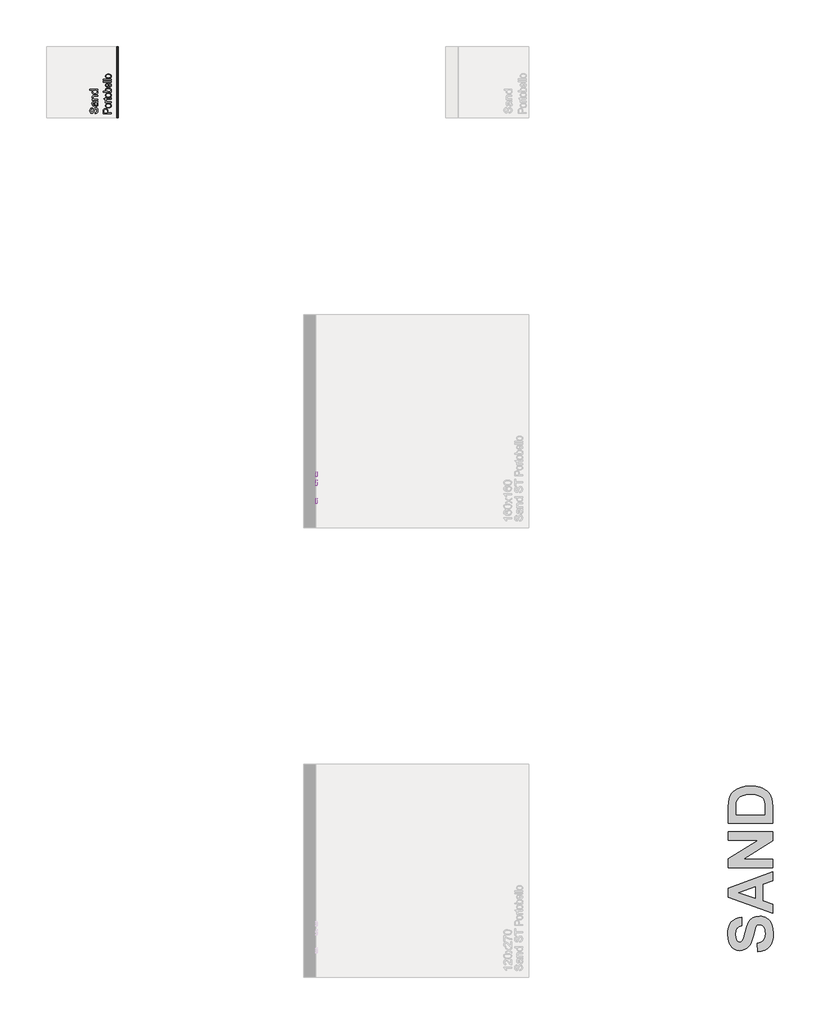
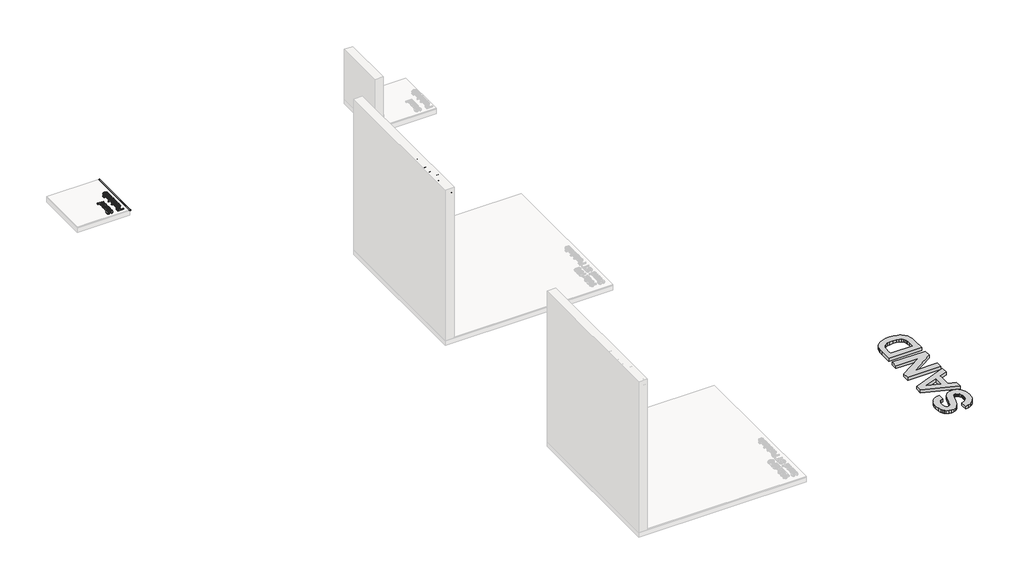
# One storey, part 10 of 19: 8 proxies.
"""IFC4 building model written with IfcOpenShell, lengths in millimetres."""

from ifc_helpers import new_model, si_unit, frame, origin, origin_with_axes, place, context, project, spatial, polyline, outline, extrude, transform, mapped, element, save
from components import off_white_04x90_tel_ext_ret_a41c1965, off_white_04x90_tel_ext_ret_b61131d4

model = new_model("IFC4")

# Units and contexts
model_context = context("Model", 3, world=origin())
ifc_project = project(units=[si_unit("LENGTHUNIT", "METRE", prefix="MILLI")], contexts=[model_context])

# Site, building, storey
site = spatial("IfcSite", under=ifc_project)
building = spatial("IfcBuilding", under=site)
storey = spatial("IfcBuildingStorey", under=building, Name="PORTOBELLO - SHOWROOM", Elevation=0.0)

# Proxies
placement = place(None, origin())
element("IfcBuildingElementProxy", 1, Name="10mm Arial", ObjectType="10mm Arial", at=placement, inside=storey, context=model_context, shape_type="SweptSolid", body=[
    extrude(outline(polyline([(10084.1273431, 2550.721447), (10096.6843818, 2550.721447), (10100.7310838, 2538.1521455), (10110.6148467, 2530.2058944), (10125.6734831, 2527.1769993), (10138.7946076, 2529.4701304), (10147.2681562, 2535.7731752), (10150.0517966, 2544.1976729), (10147.967132, 2552.0335594), (10139.4322697, 2557.7357303), (10121.1485345, 2562.530459), (10101.4668478, 2568.7231393), (10090.7860072, 2578.0673419), (10087.2666028, 2590.5508043), (10091.619873, 2604.763312), (10104.3363273, 2614.7942278), (10122.9511563, 2618.2155303), (10142.816784, 2614.6348123), (10156.0605359, 2604.1133872), (10161.0392055, 2588.3925633), (10148.4821668, 2588.3925633), (10146.1767729, 2595.8850932), (10141.3697815, 2601.2929586), (10123.4416656, 2605.6584916), (10105.4644988, 2601.3420095), (10099.8236415, 2590.9186863), (10103.8212925, 2582.2121457), (10124.3245824, 2575.1978624), (10146.5446549, 2568.8948175), (10158.6970235, 2558.716749), (10162.6088354, 2544.516504), (10158.1084123, 2529.4946558), (10145.1589661, 2518.5317724), (10126.1639924, 2514.6199605), (10103.7354534, 2518.8383407), (10089.5474711, 2531.5425323), (10084.1273431, 2550.721447)])), frame((-8994.2033025, 0.0, 0.0), z_axis=(1.0, 0.0, 0.0), x_axis=(0.0, 1.0, 0.0)), (0.0, 0.0, 1.0), 20.0),
    extrude(outline(polyline([(10226.9636591, 2525.6073694), (10214.786765, 2517.0970326), (10201.3345467, 2514.6199605), (10190.8407128, 2516.1098826), (10183.0998625, 2520.5796488), (10178.3265936, 2527.3670716), (10176.735504, 2535.8099634), (10179.1389997, 2545.7427773), (10185.4543073, 2552.9532644), (10194.246687, 2557.0735427), (10205.1114686, 2558.9620036), (10226.8900827, 2563.2784857), (10226.9636591, 2566.0743889), (10223.5055683, 2575.3450152), (10209.6241544, 2578.9747842), (10196.9199628, 2576.5590258), (10190.8621726, 2567.9873753), (10178.3051338, 2569.5570051), (10183.7375246, 2581.8197383), (10194.6758826, 2589.0056999), (10211.2428351, 2591.531823), (10226.460887, 2589.3000055), (10235.057063, 2583.6959365), (10238.9075612, 2575.1733369), (10239.5206978, 2564.185928), (10239.5206978, 2548.5632059), (10240.15836, 2526.7478036), (10242.6599575, 2516.1895903), (10230.1029188, 2516.1895903), (10226.9636591, 2525.6073694)]), holes=[polyline([(10226.9636591, 2550.721447), (10206.7056239, 2546.8709487), (10195.9021559, 2544.835335), (10191.0093254, 2541.5243971), (10189.2925428, 2536.6928802), (10193.0326764, 2529.899326), (10204.0078226, 2527.1769993), (10216.7120141, 2530.1813689), (10224.9035199, 2537.4531697), (10226.8900827, 2547.1652543), (10226.9636591, 2550.721447)])]), frame((-8994.2033025, 0.0, 0.0), z_axis=(1.0, 0.0, 0.0), x_axis=(0.0, 1.0, 0.0)), (0.0, 0.0, 1.0), 20.0),
    extrude(outline(polyline([(10256.7866261, 2516.1895903), (10256.7866261, 2589.9621931), (10269.3436649, 2589.9621931), (10269.3436649, 2579.6614972), (10278.945385, 2588.5642415), (10292.0542467, 2591.531823), (10303.9123097, 2589.14059), (10312.0057136, 2582.8620706), (10315.7703727, 2573.6282325), (10316.4325603, 2561.4881267), (10316.4325603, 2516.1895903), (10303.8755215, 2516.1895903), (10303.8755215, 2559.7958695), (10302.428519, 2570.9059058), (10297.3149593, 2576.7797549), (10288.6942579, 2578.9747842), (10275.0703613, 2574.0451655), (10270.775339, 2566.9021234), (10269.3436649, 2555.3322346), (10269.3436649, 2516.1895903), (10256.7866261, 2516.1895903)])), frame((-8994.2033025, 0.0, 0.0), z_axis=(1.0, 0.0, 0.0), x_axis=(0.0, 1.0, 0.0)), (0.0, 0.0, 1.0), 20.0),
    extrude(outline(polyline([(10379.2177541, 2516.1895903), (10379.2177541, 2528.0353906), (10370.9097524, 2517.973818), (10359.4257028, 2514.6199605), (10343.8765571, 2519.4760028), (10332.8891482, 2533.026323), (10328.9895991, 2553.0023153), (10332.5825799, 2572.9905704), (10343.3492596, 2586.749357), (10359.3766519, 2591.531823), (10370.952672, 2588.1105204), (10379.2177541, 2579.2200388), (10379.2177541, 2616.6459005), (10391.7747929, 2616.6459005), (10391.7747929, 2516.1895903), (10379.2177541, 2516.1895903)]), holes=[polyline([(10341.5466378, 2553.0513663), (10342.9629835, 2541.6930097), (10347.2120206, 2533.6149342), (10353.3863067, 2528.786483), (10360.5783997, 2527.1769993), (10367.767427, 2528.7129066), (10373.7853633, 2533.3206286), (10377.8596564, 2541.0860044), (10379.2177541, 2552.0948731), (10377.835131, 2564.1307457), (10373.6872615, 2572.4755356), (10367.516041, 2577.349972), (10360.0633649, 2578.9747842), (10352.7976955, 2577.4143514), (10346.8441386, 2572.733053), (10342.871013, 2564.6917657), (10341.5466378, 2553.0513663)])]), frame((-8994.2033025, 0.0, 0.0), z_axis=(1.0, 0.0, 0.0), x_axis=(0.0, 1.0, 0.0)), (0.0, 0.0, 1.0), 20.0),
    extrude(outline(polyline([(10446.7118375, 2550.721447), (10459.2688763, 2550.721447), (10463.3155782, 2538.1521455), (10473.1993412, 2530.2058944), (10488.2579775, 2527.1769993), (10501.379102, 2529.4701304), (10509.8526506, 2535.7731752), (10512.6362911, 2544.1976729), (10510.5516264, 2552.0335594), (10502.0167641, 2557.7357303), (10483.733029, 2562.530459), (10464.0513422, 2568.7231393), (10453.3705016, 2578.0673419), (10449.8510972, 2590.5508043), (10454.2043675, 2604.763312), (10466.9208218, 2614.7942278), (10485.5356507, 2618.2155303), (10505.4012785, 2614.6348123), (10518.6450303, 2604.1133872), (10523.6237, 2588.3925633), (10511.0666612, 2588.3925633), (10508.7612674, 2595.8850932), (10503.954276, 2601.2929586), (10486.0261601, 2605.6584916), (10468.0489932, 2601.3420095), (10462.408136, 2590.9186863), (10466.405787, 2582.2121457), (10486.9090769, 2575.1978624), (10509.1291494, 2568.8948175), (10521.2815179, 2558.716749), (10525.1933298, 2544.516504), (10520.6929067, 2529.4946558), (10507.7434605, 2518.5317724), (10488.7484868, 2514.6199605), (10466.3199479, 2518.8383407), (10452.1319656, 2531.5425323), (10446.7118375, 2550.721447)])), frame((-8994.2033025, 0.0, 0.0), z_axis=(1.0, 0.0, 0.0), x_axis=(0.0, 1.0, 0.0)), (0.0, 0.0, 1.0), 20.0),
    extrude(outline(polyline([(10569.1429655, 2516.1895903), (10569.1429655, 2604.0888617), (10536.1807387, 2604.0888617), (10536.1807387, 2616.6459005), (10614.6622311, 2616.6459005), (10614.6622311, 2604.0888617), (10581.7000043, 2604.0888617), (10581.7000043, 2516.1895903), (10569.1429655, 2516.1895903)])), frame((-8994.2033025, 0.0, 0.0), z_axis=(1.0, 0.0, 0.0), x_axis=(0.0, 1.0, 0.0)), (0.0, 0.0, 1.0), 20.0),
])
element("IfcBuildingElementProxy", 2, Name="10mm Arial", ObjectType="10mm Arial", at=placement, inside=storey, context=model_context, shape_type="SweptSolid", body=[
    extrude(outline(polyline([(10131.2162385, 2381.1895903), (10118.6591997, 2381.1895903), (10118.6591997, 2459.4748789), (10106.7643485, 2451.0013303), (10093.5451221, 2444.6614972), (10093.5451221, 2456.531823), (10111.9514846, 2468.2795213), (10123.1228346, 2481.6459005), (10131.2162385, 2481.6459005), (10131.2162385, 2381.1895903)])), frame((-8994.2033025, 0.0, 0.0), z_axis=(1.0, 0.0, 0.0), x_axis=(0.0, 1.0, 0.0)), (0.0, 0.0, 1.0), 20.0),
    extrude(outline(polyline([(10225.3940292, 2454.9621931), (10212.8369905, 2453.3925633), (10208.07905, 2463.8649374), (10195.4974857, 2469.0888617), (10184.1667203, 2466.0477039), (10175.5950698, 2454.6310993), (10172.0266145, 2432.2516113), (10183.0998625, 2442.2702643), (10196.8218609, 2445.544414), (10208.4224065, 2443.3064652), (10218.1590166, 2436.5926188), (10224.7624985, 2426.3348425), (10226.9636591, 2413.4651041), (10222.8188553, 2396.1378621), (10211.4145134, 2383.8751289), (10194.9579255, 2379.6199605), (10180.7116952, 2382.4403891), (10169.3656014, 2390.901675), (10161.9435821, 2405.837684), (10159.4695757, 2428.082282), (10162.2164279, 2453.0921263), (10170.4569846, 2470.1925077), (10181.7080423, 2478.7825523), (10196.2823007, 2481.6459005), (10207.3003664, 2479.8739355), (10216.1234029, 2474.5580407), (10222.3038205, 2466.1151489), (10225.3940292, 2454.9621931)]), holes=[polyline([(10172.0266145, 2413.6613078), (10174.9328822, 2402.7842635), (10182.6584041, 2394.8870633), (10193.9769068, 2392.1769993), (10202.2634488, 2393.5810822), (10208.7780258, 2397.7933311), (10212.9994717, 2404.415207), (10214.4066203, 2413.0481711), (10213.0178658, 2421.3347131), (10208.8516022, 2427.6530863), (10202.2266606, 2431.653803), (10193.461872, 2432.9873753), (10178.2683456, 2427.6530863), (10173.5870472, 2421.4879972), (10172.0266145, 2413.6613078)])]), frame((-8994.2033025, 0.0, 0.0), z_axis=(1.0, 0.0, 0.0), x_axis=(0.0, 1.0, 0.0)), (0.0, 0.0, 1.0), 20.0),
    extrude(outline(polyline([(10237.951068, 2430.608405), (10241.6421507, 2459.5116671), (10252.6050341, 2476.1767215), (10270.9132948, 2481.6459005), (10285.5795236, 2478.4085389), (10295.7085412, 2469.076599), (10301.5946532, 2454.2141664), (10303.8755215, 2430.608405), (10300.221227, 2401.8277703), (10289.2951318, 2385.1259277), (10281.0637721, 2380.9964523), (10270.9132948, 2379.6199605), (10257.8657467, 2382.0111935), (10247.9574583, 2389.1848924), (10240.4526656, 2406.1749092), (10237.951068, 2430.608405)]), holes=[polyline([(10250.5081068, 2430.6329305), (10251.9796347, 2410.880733), (10256.3942187, 2399.4488), (10262.9670437, 2393.9949495), (10270.9132948, 2392.1769993), (10278.8595459, 2394.0010808), (10285.4323708, 2399.4733255), (10289.8469548, 2410.9113899), (10291.3184828, 2430.6329305), (10289.8960057, 2449.9406039), (10285.6285746, 2461.4614417), (10279.0680123, 2467.1820067), (10270.766142, 2469.0888617), (10262.90573, 2467.4088673), (10256.5904224, 2462.3688839), (10252.0286857, 2450.1306762), (10250.5081068, 2430.6329305)])]), frame((-8994.2033025, 0.0, 0.0), z_axis=(1.0, 0.0, 0.0), x_axis=(0.0, 1.0, 0.0)), (0.0, 0.0, 1.0), 20.0),
    extrude(outline(polyline([(10310.1540409, 2381.1895903), (10336.9849011, 2418.2966209), (10311.7236708, 2454.9621931), (10326.7823071, 2454.9621931), (10338.9714639, 2437.2793319), (10344.6858975, 2428.9651988), (10349.6400417, 2435.7832784), (10363.5214557, 2454.9621931), (10378.6291429, 2454.9621931), (10352.0925884, 2418.2720955), (10377.6481243, 2381.1895903), (10362.5649625, 2381.1895903), (10347.1629696, 2403.5077647), (10344.3670665, 2407.6035176), (10325.2617282, 2381.1895903), (10310.1540409, 2381.1895903)])), frame((-8994.2033025, 0.0, 0.0), z_axis=(1.0, 0.0, 0.0), x_axis=(0.0, 1.0, 0.0)), (0.0, 0.0, 1.0), 20.0),
    extrude(outline(polyline([(10432.5851689, 2381.1895903), (10420.0281301, 2381.1895903), (10420.0281301, 2459.4748789), (10408.133279, 2451.0013303), (10394.9140526, 2444.6614972), (10394.9140526, 2456.531823), (10413.3204151, 2468.2795213), (10424.491765, 2481.6459005), (10432.5851689, 2481.6459005), (10432.5851689, 2381.1895903)])), frame((-8994.2033025, 0.0, 0.0), z_axis=(1.0, 0.0, 0.0), x_axis=(0.0, 1.0, 0.0)), (0.0, 0.0, 1.0), 20.0),
    extrude(outline(polyline([(10526.7629597, 2454.9621931), (10514.2059209, 2453.3925633), (10509.4479804, 2463.8649374), (10496.8664162, 2469.0888617), (10485.5356507, 2466.0477039), (10476.9640003, 2454.6310993), (10473.3955449, 2432.2516113), (10484.468793, 2442.2702643), (10498.1907914, 2445.544414), (10509.791337, 2443.3064652), (10519.5279471, 2436.5926188), (10526.1314289, 2426.3348425), (10528.3325895, 2413.4651041), (10524.1877857, 2396.1378621), (10512.7834439, 2383.8751289), (10496.3268559, 2379.6199605), (10482.0806257, 2382.4403891), (10470.7345318, 2390.901675), (10463.3125126, 2405.837684), (10460.8385061, 2428.082282), (10463.5853584, 2453.0921263), (10471.8259151, 2470.1925077), (10483.0769727, 2478.7825523), (10497.6512311, 2481.6459005), (10508.6692969, 2479.8739355), (10517.4923334, 2474.5580407), (10523.6727509, 2466.1151489), (10526.7629597, 2454.9621931)]), holes=[polyline([(10473.3955449, 2413.6613078), (10476.3018127, 2402.7842635), (10484.0273346, 2394.8870633), (10495.3458373, 2392.1769993), (10503.6323792, 2393.5810822), (10510.1469562, 2397.7933311), (10514.3684021, 2404.415207), (10515.7755507, 2413.0481711), (10514.3867962, 2421.3347131), (10510.2205326, 2427.6530863), (10503.595591, 2431.653803), (10494.8308025, 2432.9873753), (10479.6372761, 2427.6530863), (10474.9559777, 2421.4879972), (10473.3955449, 2413.6613078)])]), frame((-8994.2033025, 0.0, 0.0), z_axis=(1.0, 0.0, 0.0), x_axis=(0.0, 1.0, 0.0)), (0.0, 0.0, 1.0), 20.0),
    extrude(outline(polyline([(10539.3199984, 2430.608405), (10543.0110811, 2459.5116671), (10553.9739646, 2476.1767215), (10572.2822252, 2481.6459005), (10586.9484541, 2478.4085389), (10597.0774717, 2469.076599), (10602.9635836, 2454.2141664), (10605.244452, 2430.608405), (10601.5901575, 2401.8277703), (10590.6640622, 2385.1259277), (10582.4327026, 2380.9964523), (10572.2822252, 2379.6199605), (10559.2346771, 2382.0111935), (10549.3263887, 2389.1848924), (10541.821596, 2406.1749092), (10539.3199984, 2430.608405)]), holes=[polyline([(10551.8770372, 2430.6329305), (10553.3485652, 2410.880733), (10557.7631491, 2399.4488), (10564.3359741, 2393.9949495), (10572.2822252, 2392.1769993), (10580.2284763, 2394.0010808), (10586.8013013, 2399.4733255), (10591.2158852, 2410.9113899), (10592.6874132, 2430.6329305), (10591.2649362, 2449.9406039), (10586.997505, 2461.4614417), (10580.4369428, 2467.1820067), (10572.1350724, 2469.0888617), (10564.2746604, 2467.4088673), (10557.9593529, 2462.3688839), (10553.3976161, 2450.1306762), (10551.8770372, 2430.6329305)])]), frame((-8994.2033025, 0.0, 0.0), z_axis=(1.0, 0.0, 0.0), x_axis=(0.0, 1.0, 0.0)), (0.0, 0.0, 1.0), 20.0),
])
element("IfcBuildingElementProxy", 3, Name="10mm Arial", ObjectType="10mm Arial", at=placement, inside=storey, context=model_context, shape_type="SweptSolid", body=[
    extrude(outline(polyline([(-11789.2118925, 15254.0635668), (-11789.2118925, 15266.6206056), (-11776.642591, 15270.6673076), (-11768.6963399, 15280.5510705), (-11765.6674448, 15295.6097068), (-11767.9605759, 15308.7308313), (-11774.2636208, 15317.2043799), (-11782.6881184, 15319.9880204), (-11790.5240049, 15317.9033557), (-11796.2261759, 15309.3684934), (-11801.0209045, 15291.0847583), (-11807.2135848, 15271.4030715), (-11816.5577875, 15260.7222309), (-11829.0412498, 15257.2028265), (-11843.2537576, 15261.5560968), (-11853.2846733, 15274.2725511), (-11856.7059759, 15292.8873801), (-11853.1252578, 15312.7530078), (-11842.6038327, 15325.9967596), (-11826.8830088, 15330.9754293), (-11826.8830088, 15318.4183905), (-11834.3755388, 15316.1129967), (-11839.7834041, 15311.3060053), (-11844.1489371, 15293.3778894), (-11839.832455, 15275.4007226), (-11829.4091318, 15269.7598653), (-11820.7025913, 15273.7575163), (-11813.6883079, 15294.2608062), (-11807.3852631, 15316.4808787), (-11797.2071945, 15328.6332473), (-11783.0069495, 15332.5450591), (-11767.9851014, 15328.0446361), (-11757.0222179, 15315.0951898), (-11753.110406, 15296.1002162), (-11757.3287862, 15273.6716772), (-11770.0329778, 15259.4836949), (-11789.2118925, 15254.0635668)])), frame((0.0, 0.0, 17.0), z_axis=(0.0, 0.0, 1.0), x_axis=(1.0, 0.0, 0.0)), (0.0, 0.0, 1.0), 20.0),
    extrude(outline(polyline([(-11764.097815, 15396.8998828), (-11755.5874781, 15384.7229888), (-11753.110406, 15371.2707705), (-11754.6003281, 15360.7769366), (-11759.0700944, 15353.0360863), (-11765.8575172, 15348.2628174), (-11774.300409, 15346.6717278), (-11784.2332228, 15349.0752235), (-11791.4437099, 15355.390531), (-11795.5639883, 15364.1829107), (-11797.4524492, 15375.0476923), (-11801.7689313, 15396.8263064), (-11804.5648344, 15396.8998828), (-11813.8354607, 15393.4417921), (-11817.4652297, 15379.5603781), (-11815.0494713, 15366.8561866), (-11806.4778208, 15360.7983964), (-11808.0474506, 15348.2413576), (-11820.3101838, 15353.6737484), (-11827.4961455, 15364.6121064), (-11830.0222685, 15381.1790589), (-11827.790451, 15396.3971108), (-11822.186382, 15404.9932867), (-11813.6637824, 15408.8437849), (-11802.6763735, 15409.4569216), (-11787.0536515, 15409.4569216), (-11765.2382491, 15410.0945837), (-11754.6800359, 15412.5961813), (-11754.6800359, 15400.0391425), (-11764.097815, 15396.8998828)]), holes=[polyline([(-11789.2118925, 15396.8998828), (-11785.3613943, 15376.6418476), (-11783.3257806, 15365.8383797), (-11780.0148426, 15360.9455492), (-11775.1833257, 15359.2287665), (-11768.3897716, 15362.9689001), (-11765.6674448, 15373.9440463), (-11768.6718144, 15386.6482379), (-11775.9436152, 15394.8397437), (-11785.6556999, 15396.8263064), (-11789.2118925, 15396.8998828)])]), frame((0.0, 0.0, 17.0), z_axis=(0.0, 0.0, 1.0), x_axis=(1.0, 0.0, 0.0)), (0.0, 0.0, 1.0), 20.0),
    extrude(outline(polyline([(-11754.6800359, 15426.7228499), (-11828.4526386, 15426.7228499), (-11828.4526386, 15439.2798887), (-11818.1519428, 15439.2798887), (-11827.0546871, 15448.8816087), (-11830.0222685, 15461.9904705), (-11827.6310355, 15473.8485335), (-11821.3525161, 15481.9419374), (-11812.1186781, 15485.7065965), (-11799.9785722, 15486.3687841), (-11754.6800359, 15486.3687841), (-11754.6800359, 15473.8117453), (-11798.286315, 15473.8117453), (-11809.3963513, 15472.3647428), (-11815.2702005, 15467.251183), (-11817.4652297, 15458.6304816), (-11812.535611, 15445.0065851), (-11805.3925689, 15440.7115628), (-11793.8226802, 15439.2798887), (-11754.6800359, 15439.2798887), (-11754.6800359, 15426.7228499)])), frame((0.0, 0.0, 17.0), z_axis=(0.0, 0.0, 1.0), x_axis=(1.0, 0.0, 0.0)), (0.0, 0.0, 1.0), 20.0),
    extrude(outline(polyline([(-11754.6800359, 15549.1539779), (-11766.5258361, 15549.1539779), (-11756.4642636, 15540.8459762), (-11753.110406, 15529.3619266), (-11757.9664484, 15513.8127809), (-11771.5167685, 15502.825372), (-11791.4927609, 15498.9258228), (-11811.4810159, 15502.5188036), (-11825.2398025, 15513.2854834), (-11830.0222685, 15529.3128756), (-11826.6009659, 15540.8888957), (-11817.7104844, 15549.1539779), (-11855.136346, 15549.1539779), (-11855.136346, 15561.7110167), (-11754.6800359, 15561.7110167), (-11754.6800359, 15549.1539779)]), holes=[polyline([(-11791.5418118, 15511.4828616), (-11780.1834552, 15512.8992073), (-11772.1053797, 15517.1482443), (-11767.2769285, 15523.3225305), (-11765.6674448, 15530.5146235), (-11767.2033521, 15537.7036508), (-11771.8110741, 15543.7215871), (-11779.5764499, 15547.7958802), (-11790.5853186, 15549.1539779), (-11802.6211912, 15547.7713547), (-11810.9659811, 15543.6234852), (-11815.8404176, 15537.4522648), (-11817.4652297, 15529.9995887), (-11815.9047969, 15522.7339193), (-11811.2234985, 15516.7803623), (-11803.1822113, 15512.8072368), (-11791.5418118, 15511.4828616)])]), frame((0.0, 0.0, 17.0), z_axis=(0.0, 0.0, 1.0), x_axis=(1.0, 0.0, 0.0)), (0.0, 0.0, 1.0), 20.0),
])
element("IfcBuildingElementProxy", 4, Name="10mm Arial Narrow", ObjectType="10mm Arial Narrow", at=placement, inside=storey, context=model_context, shape_type="SweptSolid", body=[
    extrude(outline(polyline([(10652.6220562, 2516.1895903), (10652.6220562, 2616.9081941), (10683.9189409, 2616.9081941), (10700.2146424, 2615.0298734), (10711.6876285, 2605.5494302), (10715.9773069, 2588.5303214), (10714.1909985, 2576.4544958), (10708.8320733, 2566.8281021), (10699.0882845, 2560.5268436), (10684.1473853, 2558.4264242), (10662.3690178, 2558.4264242), (10662.3690178, 2516.1895903), (10652.6220562, 2516.1895903)]), holes=[polyline([(10662.3690178, 2569.7978794), (10685.3403728, 2569.7978794), (10701.2045682, 2574.3286936), (10706.2303453, 2587.9972844), (10703.7555308, 2598.1630608), (10697.777902, 2603.9630106), (10685.1119283, 2605.5367388), (10662.3690178, 2605.5367388), (10662.3690178, 2569.7978794)])]), frame((-8994.2033025, 0.0, 0.0), z_axis=(1.0, 0.0, 0.0), x_axis=(0.0, 1.0, 0.0)), (0.0, 0.0, 1.0), 20.0),
    extrude(outline(polyline([(10724.099775, 2552.7406965), (10726.0542438, 2569.3314721), (10731.9176505, 2581.2835569), (10740.7762172, 2588.5081115), (10751.7161663, 2590.9162964), (10762.5292019, 2588.5081115), (10771.4131513, 2581.2835569), (10777.3527061, 2569.5218424), (10779.3325577, 2553.5021779), (10777.3876073, 2536.3402913), (10771.5527562, 2524.1978362), (10762.703708, 2516.9732816), (10751.7161663, 2514.5650967), (10740.8555381, 2516.9796273), (10731.9811072, 2524.2232189), (10726.070108, 2536.1816494), (10724.099775, 2552.7406965)]), holes=[polyline([(10733.8467366, 2552.7660793), (10735.1507735, 2540.2143279), (10739.0628841, 2531.3430698), (10744.9040808, 2526.0698112), (10751.9953762, 2524.3120584), (10758.7154493, 2526.0856754), (10764.4075226, 2531.4065266), (10768.2910777, 2540.2936488), (10769.585596, 2552.7660793), (10768.2815591, 2565.2797566), (10764.3694486, 2574.1383233), (10758.5282518, 2579.4115818), (10751.4369565, 2581.1693347), (10744.6692907, 2579.4020633), (10738.9867359, 2574.1002492), (10735.1317364, 2565.232164), (10733.8467366, 2552.7660793)])]), frame((-8994.2033025, 0.0, 0.0), z_axis=(1.0, 0.0, 0.0), x_axis=(0.0, 1.0, 0.0)), (0.0, 0.0, 1.0), 20.0),
    extrude(outline(polyline([(10850.8102765, 2524.3120584), (10852.4347701, 2514.5650967), (10845.0737834, 2514.5650967), (10836.7990191, 2516.6845532), (10832.4839579, 2522.4845031), (10831.3163532, 2537.1303283), (10831.3163532, 2579.5448411), (10823.1938851, 2579.5448411), (10823.1938851, 2582.7938283), (10821.5693915, 2577.9203475), (10814.0053431, 2579.5448411), (10807.9261835, 2577.2223229), (10804.0553198, 2570.7370398), (10802.0754682, 2555.3297332), (10802.0754682, 2516.1895903), (10792.3285065, 2516.1895903), (10792.3285065, 2589.2918027), (10802.0754682, 2589.2918027), (10802.0754682, 2579.5956065), (10808.3196155, 2588.6826176), (10814.7160591, 2590.9162964), (10823.1938851, 2589.2918027), (10831.3163532, 2589.2918027), (10831.3163532, 2605.5367388), (10841.0633148, 2613.6592069), (10841.0633148, 2589.2918027), (10850.8102765, 2589.2918027), (10850.8102765, 2579.5448411), (10841.0633148, 2579.5448411), (10841.0633148, 2534.8966496), (10841.926327, 2526.9010951), (10846.5459807, 2524.3120584), (10850.8102765, 2524.3120584)])), frame((-8994.2033025, 0.0, 0.0), z_axis=(1.0, 0.0, 0.0), x_axis=(0.0, 1.0, 0.0)), (0.0, 0.0, 1.0), 20.0),
    extrude(outline(polyline([(10857.3082509, 2552.7406965), (10859.2627198, 2569.3314721), (10865.1261264, 2581.2835569), (10873.9846931, 2588.5081115), (10884.9246422, 2590.9162964), (10895.7376778, 2588.5081115), (10904.6216273, 2581.2835569), (10910.561182, 2569.5218424), (10912.5410336, 2553.5021779), (10910.5960832, 2536.3402913), (10904.7612322, 2524.1978362), (10895.912184, 2516.9732816), (10884.9246422, 2514.5650967), (10874.0640141, 2516.9796273), (10865.1895832, 2524.2232189), (10859.278584, 2536.1816494), (10857.3082509, 2552.7406965)]), holes=[polyline([(10867.0552125, 2552.7660793), (10868.3592494, 2540.2143279), (10872.27136, 2531.3430698), (10878.1125567, 2526.0698112), (10885.2038521, 2524.3120584), (10891.9239253, 2526.0856754), (10897.6159986, 2531.4065266), (10901.4995536, 2540.2936488), (10902.7940719, 2552.7660793), (10901.4900351, 2565.2797566), (10897.5779245, 2574.1383233), (10891.7367277, 2579.4115818), (10884.6454324, 2581.1693347), (10877.8777666, 2579.4020633), (10872.1952119, 2574.1002492), (10868.3402124, 2565.232164), (10867.0552125, 2552.7660793)])]), frame((-8994.2033025, 0.0, 0.0), z_axis=(1.0, 0.0, 0.0), x_axis=(0.0, 1.0, 0.0)), (0.0, 0.0, 1.0), 20.0),
    extrude(outline(polyline([(10935.2839441, 2516.1895903), (10925.5369825, 2516.1895903), (10925.5369825, 2616.9081941), (10935.2839441, 2616.9081941), (10935.2839441, 2581.49931), (10942.6830049, 2588.5810868), (10951.8842382, 2590.9162964), (10964.7659649, 2586.7154574), (10974.0433463, 2573.986027), (10977.520778, 2553.2991162), (10975.588519, 2536.8447728), (10969.791742, 2524.6420337), (10961.4186196, 2517.084331), (10951.7573246, 2514.5650967), (10942.4164864, 2517.1795161), (10935.2839441, 2524.9466262), (10935.2839441, 2516.1895903)]), holes=[polyline([(10935.2839441, 2553.2991162), (10937.3653266, 2536.051563), (10943.2541159, 2527.3199098), (10951.7065592, 2524.3120584), (10957.6492868, 2526.1015396), (10962.8876441, 2531.4699834), (10967.7738163, 2552.8929928), (10963.0653231, 2574.3286936), (10957.8206201, 2579.4591744), (10951.5034975, 2581.1693347), (10945.5258687, 2579.3798535), (10940.2335731, 2574.0114097), (10935.2839441, 2553.2991162)])]), frame((-8994.2033025, 0.0, 0.0), z_axis=(1.0, 0.0, 0.0), x_axis=(0.0, 1.0, 0.0)), (0.0, 0.0, 1.0), 20.0),
    extrude(outline(polyline([(11029.5045734, 2538.9325009), (11039.2515351, 2537.3080073), (11035.5520047, 2527.4214407), (11029.7330179, 2520.3015898), (11022.0293646, 2515.99922), (11012.675835, 2514.5650967), (11001.082281, 2516.9796273), (10991.9381587, 2524.2232189), (10985.998604, 2536.0293531), (10984.0187524, 2552.1315114), (10986.0081225, 2568.7984351), (10991.9762328, 2580.9789644), (11000.9902686, 2588.4319634), (11012.1174153, 2590.9162964), (11022.8003645, 2588.51763), (11031.5478818, 2581.321631), (11037.3827329, 2569.5821264), (11039.3276832, 2553.5529433), (11039.2515351, 2550.3039561), (10993.765714, 2550.3039561), (10999.7687256, 2530.8607982), (11005.6987618, 2525.9492434), (11012.8027485, 2524.3120584), (11022.9812163, 2527.967169), (11029.5045734, 2538.9325009)]), holes=[polyline([(10994.4256646, 2560.0509178), (11029.5045734, 2560.0509178), (11025.2402777, 2574.3160023), (11019.4149452, 2579.4560016), (11012.1935634, 2581.1693347), (10999.9844786, 2575.4582244), (10994.4256646, 2560.0509178)])]), frame((-8994.2033025, 0.0, 0.0), z_axis=(1.0, 0.0, 0.0), x_axis=(0.0, 1.0, 0.0)), (0.0, 0.0, 1.0), 20.0),
    extrude(outline(polyline([(-8974.2033025, 11061.9944456), (-8974.2033025, 11052.247484), (-8994.2033025, 11052.247484), (-8994.2033025, 11061.9944456), (-8974.2033025, 11061.9944456)])), frame((0.0, 0.0, 2516.1895903), z_axis=(0.0, 0.0, 1.0), x_axis=(1.0, 0.0, 0.0)), (0.0, 0.0, 1.0), 100.7186038),
    extrude(outline(polyline([(-8974.2033025, 11087.9863434), (-8974.2033025, 11078.2393817), (-8994.2033025, 11078.2393817), (-8994.2033025, 11087.9863434), (-8974.2033025, 11087.9863434)])), frame((0.0, 0.0, 2516.1895903), z_axis=(0.0, 0.0, 1.0), x_axis=(1.0, 0.0, 0.0)), (0.0, 0.0, 1.0), 100.7186038),
    extrude(outline(polyline([(11099.3577986, 2552.7406965), (11101.3122675, 2569.3314721), (11107.1756741, 2581.2835569), (11116.0342408, 2588.5081115), (11126.97419, 2590.9162964), (11137.7872256, 2588.5081115), (11146.671175, 2581.2835569), (11152.6107297, 2569.5218424), (11154.5905813, 2553.5021779), (11152.645631, 2536.3402913), (11146.8107799, 2524.1978362), (11137.9617317, 2516.9732816), (11126.97419, 2514.5650967), (11116.1135618, 2516.9796273), (11107.2391309, 2524.2232189), (11101.3281317, 2536.1816494), (11099.3577986, 2552.7406965)]), holes=[polyline([(11109.1047603, 2552.7660793), (11110.4087971, 2540.2143279), (11114.3209077, 2531.3430698), (11120.1621045, 2526.0698112), (11127.2533998, 2524.3120584), (11133.973473, 2526.0856754), (11139.6655463, 2531.4065266), (11143.5491013, 2540.2936488), (11144.8436197, 2552.7660793), (11143.5395828, 2565.2797566), (11139.6274722, 2574.1383233), (11133.7862755, 2579.4115818), (11126.6949801, 2581.1693347), (11119.9273144, 2579.4020633), (11114.2447596, 2574.1002492), (11110.3897601, 2565.232164), (11109.1047603, 2552.7660793)])]), frame((-8994.2033025, 0.0, 0.0), z_axis=(1.0, 0.0, 0.0), x_axis=(0.0, 1.0, 0.0)), (0.0, 0.0, 1.0), 20.0),
])
element("IfcBuildingElementProxy", 5, Name="10mm Arial Narrow", ObjectType="10mm Arial Narrow", at=placement, inside=storey, context=model_context, shape_type="SweptSolid", body=[
    extrude(outline(polyline([(-11584.6800359, 15255.9075155), (-11685.3986396, 15255.9075155), (-11685.3986396, 15287.2044002), (-11683.5203189, 15303.5001017), (-11674.0398757, 15314.9730878), (-11657.0207669, 15319.2627662), (-11644.9449414, 15317.4764578), (-11635.3185476, 15312.1175326), (-11629.0172892, 15302.3737438), (-11626.9168697, 15287.4328446), (-11626.9168697, 15265.6544772), (-11584.6800359, 15265.6544772), (-11584.6800359, 15255.9075155)]), holes=[polyline([(-11638.288325, 15265.6544772), (-11638.288325, 15288.6258321), (-11642.8191392, 15304.4900275), (-11656.4877299, 15309.5158046), (-11666.6535063, 15307.0409901), (-11672.4534562, 15301.0633613), (-11674.0271844, 15288.3973877), (-11674.0271844, 15265.6544772), (-11638.288325, 15265.6544772)])]), frame((0.0, 0.0, 17.0), z_axis=(0.0, 0.0, 1.0), x_axis=(1.0, 0.0, 0.0)), (0.0, 0.0, 1.0), 20.0),
    extrude(outline(polyline([(-11621.2311421, 15327.3852343), (-11637.8219176, 15329.3397032), (-11649.7740024, 15335.2031098), (-11656.998557, 15344.0616765), (-11659.4067419, 15355.0016256), (-11656.998557, 15365.8146612), (-11649.7740024, 15374.6986106), (-11638.012288, 15380.6381654), (-11621.9926235, 15382.618017), (-11604.8307369, 15380.6730666), (-11592.6882817, 15374.8382156), (-11585.4637271, 15365.9891674), (-11583.0555423, 15355.0016256), (-11585.4700728, 15344.1409975), (-11592.7136644, 15335.2665666), (-11604.6720949, 15329.3555674), (-11621.2311421, 15327.3852343)]), holes=[polyline([(-11621.2565248, 15337.1321959), (-11608.7047734, 15338.4362328), (-11599.8335153, 15342.3483434), (-11594.5602568, 15348.1895401), (-11592.8025039, 15355.2808355), (-11594.576121, 15362.0009087), (-11599.8969721, 15367.692982), (-11608.7840944, 15371.576537), (-11621.2565248, 15372.8710553), (-11633.7702021, 15371.5670185), (-11642.6287688, 15367.6549079), (-11647.9020274, 15361.8137111), (-11649.6597802, 15354.7224158), (-11647.8925089, 15347.95475), (-11642.5906948, 15342.2721953), (-11633.7226095, 15338.4171958), (-11621.2565248, 15337.1321959)])]), frame((0.0, 0.0, 17.0), z_axis=(0.0, 0.0, 1.0), x_axis=(1.0, 0.0, 0.0)), (0.0, 0.0, 1.0), 20.0),
    extrude(outline(polyline([(-11592.8025039, 15454.0957358), (-11583.0555423, 15455.7202294), (-11583.0555423, 15448.3592427), (-11585.1749988, 15440.0844784), (-11590.9749486, 15435.7694173), (-11605.6207738, 15434.6018125), (-11648.0352866, 15434.6018125), (-11648.0352866, 15426.4793444), (-11651.2842738, 15426.4793444), (-11646.410793, 15424.8548508), (-11648.0352866, 15417.2908025), (-11645.7127684, 15411.2116428), (-11639.2274853, 15407.3407791), (-11623.8201788, 15405.3609275), (-11584.6800359, 15405.3609275), (-11584.6800359, 15395.6139659), (-11657.7822483, 15395.6139659), (-11657.7822483, 15405.3609275), (-11648.086052, 15405.3609275), (-11657.1730632, 15411.6050748), (-11659.4067419, 15418.0015184), (-11657.7822483, 15426.4793444), (-11657.7822483, 15434.6018125), (-11674.0271844, 15434.6018125), (-11682.1496524, 15444.3487741), (-11657.7822483, 15444.3487741), (-11657.7822483, 15454.0957358), (-11648.0352866, 15454.0957358), (-11648.0352866, 15444.3487741), (-11603.3870951, 15444.3487741), (-11595.3915406, 15445.2117864), (-11592.8025039, 15449.8314401), (-11592.8025039, 15454.0957358)])), frame((0.0, 0.0, 17.0), z_axis=(0.0, 0.0, 1.0), x_axis=(1.0, 0.0, 0.0)), (0.0, 0.0, 1.0), 20.0),
    extrude(outline(polyline([(-11621.2311421, 15460.5937102), (-11637.8219176, 15462.5481791), (-11649.7740024, 15468.4115857), (-11656.998557, 15477.2701524), (-11659.4067419, 15488.2101016), (-11656.998557, 15499.0231372), (-11649.7740024, 15507.9070866), (-11638.012288, 15513.8466413), (-11621.9926235, 15515.8264929), (-11604.8307369, 15513.8815426), (-11592.6882817, 15508.0466915), (-11585.4637271, 15499.1976433), (-11583.0555423, 15488.2101016), (-11585.4700728, 15477.3494734), (-11592.7136644, 15468.4750425), (-11604.6720949, 15462.5640433), (-11621.2311421, 15460.5937102)]), holes=[polyline([(-11621.2565248, 15470.3406719), (-11608.7047734, 15471.6447087), (-11599.8335153, 15475.5568193), (-11594.5602568, 15481.3980161), (-11592.8025039, 15488.4893114), (-11594.576121, 15495.2093846), (-11599.8969721, 15500.9014579), (-11608.7840944, 15504.7850129), (-11621.2565248, 15506.0795313), (-11633.7702021, 15504.7754944), (-11642.6287688, 15500.8633838), (-11647.9020274, 15495.0221871), (-11649.6597802, 15487.9308917), (-11647.8925089, 15481.163226), (-11642.5906948, 15475.4806712), (-11633.7226095, 15471.6256717), (-11621.2565248, 15470.3406719)])]), frame((0.0, 0.0, 17.0), z_axis=(0.0, 0.0, 1.0), x_axis=(1.0, 0.0, 0.0)), (0.0, 0.0, 1.0), 20.0),
    extrude(outline(polyline([(-11584.6800359, 15538.5694034), (-11584.6800359, 15528.8224418), (-11685.3986396, 15528.8224418), (-11685.3986396, 15538.5694034), (-11649.9897555, 15538.5694034), (-11657.0715323, 15545.9684642), (-11659.4067419, 15555.1696975), (-11655.2059029, 15568.0514242), (-11642.4764726, 15577.3288056), (-11621.7895618, 15580.8062373), (-11605.3352183, 15578.8739783), (-11593.1324792, 15573.0772013), (-11585.5747765, 15564.7040789), (-11583.0555423, 15555.042784), (-11585.6699617, 15545.7019457), (-11593.4370717, 15538.5694034), (-11584.6800359, 15538.5694034)]), holes=[polyline([(-11621.7895618, 15538.5694034), (-11604.5420085, 15540.6507859), (-11595.8103554, 15546.5395752), (-11592.8025039, 15554.9920185), (-11594.5919852, 15560.9347461), (-11599.9604289, 15566.1731034), (-11621.3834384, 15571.0592756), (-11642.8191392, 15566.3507824), (-11647.94962, 15561.1060794), (-11649.6597802, 15554.7889568), (-11647.870299, 15548.811328), (-11642.5018553, 15543.5190324), (-11621.7895618, 15538.5694034)])]), frame((0.0, 0.0, 17.0), z_axis=(0.0, 0.0, 1.0), x_axis=(1.0, 0.0, 0.0)), (0.0, 0.0, 1.0), 20.0),
    extrude(outline(polyline([(-11607.4229464, 15632.7900328), (-11605.7984528, 15642.5369944), (-11595.9118862, 15638.8374641), (-11588.7920353, 15633.0184772), (-11584.4896655, 15625.3148239), (-11583.0555423, 15615.9612943), (-11585.4700728, 15604.3677403), (-11592.7136644, 15595.2236181), (-11604.5197986, 15589.2840633), (-11620.621957, 15587.3042117), (-11637.2888807, 15589.2935818), (-11649.4694099, 15595.2616921), (-11656.9224089, 15604.275728), (-11659.4067419, 15615.4028746), (-11657.0080755, 15626.0858238), (-11649.8120765, 15634.8333411), (-11638.0725719, 15640.6681922), (-11622.0433889, 15642.6131426), (-11618.7944017, 15642.5369944), (-11618.7944017, 15597.0511734), (-11599.3512438, 15603.0541849), (-11594.4396889, 15608.9842211), (-11592.8025039, 15616.0882078), (-11596.4576145, 15626.2666756), (-11607.4229464, 15632.7900328)]), holes=[polyline([(-11628.5413633, 15597.7111239), (-11628.5413633, 15632.7900328), (-11642.8064478, 15628.525737), (-11647.9464471, 15622.7004045), (-11649.6597802, 15615.4790227), (-11643.9486699, 15603.269938), (-11628.5413633, 15597.7111239)])]), frame((0.0, 0.0, 17.0), z_axis=(0.0, 0.0, 1.0), x_axis=(1.0, 0.0, 0.0)), (0.0, 0.0, 1.0), 20.0),
    extrude(outline(polyline([(-11584.6800359, 15655.5329433), (-11685.3986396, 15655.5329433), (-11685.3986396, 15665.2799049), (-11584.6800359, 15665.2799049), (-11584.6800359, 15655.5329433)])), frame((0.0, 0.0, 17.0), z_axis=(0.0, 0.0, 1.0), x_axis=(1.0, 0.0, 0.0)), (0.0, 0.0, 1.0), 20.0),
    extrude(outline(polyline([(-11584.6800359, 15681.524841), (-11685.3986396, 15681.524841), (-11685.3986396, 15691.2718027), (-11584.6800359, 15691.2718027), (-11584.6800359, 15681.524841)])), frame((0.0, 0.0, 17.0), z_axis=(0.0, 0.0, 1.0), x_axis=(1.0, 0.0, 0.0)), (0.0, 0.0, 1.0), 20.0),
    extrude(outline(polyline([(-11621.2311421, 15702.6432579), (-11637.8219176, 15704.5977268), (-11649.7740024, 15710.4611334), (-11656.998557, 15719.3197002), (-11659.4067419, 15730.2596493), (-11656.998557, 15741.0726849), (-11649.7740024, 15749.9566343), (-11638.012288, 15755.8961891), (-11621.9926235, 15757.8760407), (-11604.8307369, 15755.9310903), (-11592.6882817, 15750.0962392), (-11585.4637271, 15741.247191), (-11583.0555423, 15730.2596493), (-11585.4700728, 15719.3990211), (-11592.7136644, 15710.5245902), (-11604.6720949, 15704.613591), (-11621.2311421, 15702.6432579)]), holes=[polyline([(-11621.2565248, 15712.3902196), (-11608.7047734, 15713.6942565), (-11599.8335153, 15717.6063671), (-11594.5602568, 15723.4475638), (-11592.8025039, 15730.5388591), (-11594.576121, 15737.2589323), (-11599.8969721, 15742.9510056), (-11608.7840944, 15746.8345607), (-11621.2565248, 15748.129079), (-11633.7702021, 15746.8250421), (-11642.6287688, 15742.9129316), (-11647.9020274, 15737.0717348), (-11649.6597802, 15729.9804395), (-11647.8925089, 15723.2127737), (-11642.5906948, 15717.5302189), (-11633.7226095, 15713.6752194), (-11621.2565248, 15712.3902196)])]), frame((0.0, 0.0, 17.0), z_axis=(0.0, 0.0, 1.0), x_axis=(1.0, 0.0, 0.0)), (0.0, 0.0, 1.0), 20.0),
])
element("IfcBuildingElementProxy", 6, Name="550mm Arial", ObjectType="550mm Arial", at=placement, inside=storey, context=model_context, shape_type="SweptSolid", body=[
    extrude(outline(polyline([(-3387.2591086, 4627.4118956), (-3396.1661351, 4734.2962137), (-3370.4366581, 4740.7677252), (-3348.3604538, 4749.8835101), (-3329.937522, 4761.6435685), (-3315.1678628, 4776.0479005), (-3303.8427178, 4793.1399972), (-3295.7533285, 4812.9633502), (-3290.8996949, 4835.5179593), (-3289.281817, 4860.8038246), (-3290.7126821, 4887.3770335), (-3295.0052774, 4910.4535387), (-3302.1596029, 4930.0333402), (-3312.1756586, 4946.1164378), (-3324.1053332, 4958.6593404), (-3337.0005157, 4967.6185565), (-3350.8612058, 4972.9940862), (-3365.6874038, 4974.7859294), (-3383.866784, 4971.8111217), (-3399.1583393, 4962.8866987), (-3412.0839657, 4946.5165582), (-3423.1655592, 4921.2045981), (-3446.9640206, 4828.5158535), (-3458.5762085, 4785.4942196), (-3471.5627228, 4749.3964071), (-3485.9235634, 4720.222416), (-3501.6587303, 4697.9722462), (-3526.0225792, 4674.895741), (-3552.9089258, 4658.412523), (-3582.3177701, 4648.5225922), (-3614.2491122, 4645.2259486), (-3655.5832821, 4651.2799432), (-3694.1340062, 4669.4419269), (-3711.6088268, 4682.8894494), (-3726.8742873, 4699.0160384), (-3739.9303876, 4717.821694), (-3750.7771279, 4739.3064161), (-3765.3902183, 4789.6519917), (-3770.2612484, 4849.3916969), (-3767.2255529, 4898.8109069), (-3758.1184662, 4941.7151142), (-3742.9399884, 4978.1043187), (-3721.6901195, 5007.9785204), (-3695.3778586, 5031.4334002), (-3665.0122047, 5048.5646392), (-3630.593158, 5059.3722373), (-3592.1207183, 5063.8561945), (-3592.1207183, 4956.9718764), (-3628.8448061, 4945.1596284), (-3642.7054962, 4936.030796), (-3653.5652839, 4924.7534915), (-3661.7547033, 4910.8580082), (-3667.6042886, 4893.8746398), (-3672.2839568, 4850.6442475), (-3667.3085475, 4805.1349089), (-3661.0892858, 4786.5554083), (-3652.3823195, 4770.7593535), (-3637.4212984, 4756.7725384), (-3618.1459363, 4752.1102667), (-3599.9491595, 4756.3550215), (-3584.6054146, 4769.089286), (-3575.694039, 4783.724122), (-3566.6347928, 4806.0569253), (-3548.0726887, 4873.8164336), (-3528.7625336, 4946.1338344), (-3508.5477586, 4996.7751511), (-3484.0708323, 5032.2640848), (-3451.9742231, 5059.1243367), (-3432.9685073, 5068.9881726), (-3411.8578107, 5076.0337698), (-3363.3214749, 5081.6702475), (-3339.7665649, 5080.0045292), (-3316.9771026, 5075.0073742), (-3294.9530878, 5066.6787825), (-3273.6945206, 5055.0187541), (-3254.1582105, 5040.3099828), (-3237.300967, 5022.8351623), (-3223.12279, 5002.5942924), (-3211.6236796, 4979.5873734), (-3202.7340497, 4953.6969785), (-3196.384314, 4924.8056811), (-3191.3045254, 4858.0203788), (-3194.4315528, 4808.0749235), (-3203.8126349, 4764.287842), (-3219.4477718, 4726.6591343), (-3241.3369634, 4695.1888004), (-3269.2192617, 4669.6593837), (-3302.8337187, 4649.8534272), (-3342.1803343, 4635.7709312), (-3387.2591086, 4627.4118956)])), origin_with_axes(), (0.0, 0.0, 1.0), 50.0),
    extrude(outline(polyline([(-3200.2115519, 5642.8129175), (-3200.2115519, 5530.5008801), (-3324.909923, 5486.5224367), (-3324.909923, 5274.7022126), (-3200.2115519, 5231.2804584), (-3200.2115519, 5117.2983535), (-3761.3542219, 5321.8816186), (-3761.3542219, 5436.0028958), (-3200.2115519, 5642.8129175)]), holes=[polyline([(-3422.8872146, 5452.2860536), (-3627.7488243, 5380.0556355), (-3422.8872146, 5308.7994234), (-3422.8872146, 5452.2860536)])]), origin_with_axes(), (0.0, 0.0, 1.0), 50.0),
    extrude(outline(polyline([(-3200.2115519, 5696.2550765), (-3761.3542219, 5696.2550765), (-3761.3542219, 5808.2887693), (-3383.6406291, 6043.6291103), (-3761.3542219, 6043.6291103), (-3761.3542219, 6150.5134284), (-3200.2115519, 6150.5134284), (-3200.2115519, 6035.0004284), (-3572.3582532, 5803.1393946), (-3200.2115519, 5803.1393946), (-3200.2115519, 5696.2550765)])), origin_with_axes(), (0.0, 0.0, 1.0), 50.0),
    extrude(outline(polyline([(-3761.3542219, 6257.3977465), (-3761.3542219, 6465.1819742), (-3758.6751553, 6527.1136429), (-3750.6379556, 6572.3446369), (-3741.9266402, 6596.230081), (-3730.4057841, 6618.3410785), (-3716.0753875, 6638.6776292), (-3698.9354502, 6657.2397333), (-3657.6708665, 6688.3621365), (-3608.0559454, 6711.0298231), (-3547.9857061, 6724.8600693), (-3475.3551676, 6729.4701514), (-3410.9183978, 6725.1558104), (-3355.9453435, 6712.2127875), (-3326.7887489, 6700.5049187), (-3300.5547724, 6686.5355002), (-3277.243414, 6670.304532), (-3256.8546736, 6651.812014), (-3231.3165586, 6617.0885279), (-3212.0411965, 6571.92712), (-3203.1689631, 6527.9834697), (-3200.2115519, 6471.305555), (-3200.2115519, 6257.3977465), (-3761.3542219, 6257.3977465)]), holes=[polyline([(-3663.3769303, 6364.2820646), (-3298.1888435, 6364.2820646), (-3298.1888435, 6455.3007417), (-3299.5109803, 6499.2791851), (-3303.4773905, 6529.062055), (-3312.5409858, 6556.1832548), (-3326.3712321, 6578.2594592), (-3347.7863681, 6596.0213226), (-3379.6046327, 6610.1994996), (-3423.3743176, 6619.4892499), (-3480.6437146, 6622.5858333), (-3537.112871, 6619.4892499), (-3578.7601785, 6610.1994996), (-3609.2389098, 6595.3602542), (-3632.2023375, 6575.6151857), (-3648.2767369, 6550.4076048), (-3658.0883833, 6519.1808224), (-3662.0547936, 6481.3607529), (-3663.3769303, 6419.1159465), (-3663.3769303, 6364.2820646)])]), origin_with_axes(), (0.0, 0.0, 1.0), 50.0),
])
off_white_04x90_tel_ext_ret_shape = off_white_04x90_tel_ext_ret_a41c1965(model_context)
element("IfcBuildingElementProxy", 7, Name="PORTOBELLO - BORDA MINI KALKS SAND 04X90 TEL EXT RET : SAND 04X90 TEL EXT RET", ObjectType="PORTOBELLO - BORDA MINI KALKS SAND 04X90 TEL EXT RET : SAND 04X90 TEL EXT RET", at=placement, inside=storey, context=model_context, shape_type="MappedRepresentation", body=[
    mapped(off_white_04x90_tel_ext_ret_shape, transform((-11505.2033025, 15205.6967801, 17.0), x_axis=(0.0, 1.0, 0.0), y_axis=(-1.0, 0.0, 0.0), z_axis=(0.0, 0.0, 1.0))),
])
off_white_04x90_tel_ext_ret_2_shape = off_white_04x90_tel_ext_ret_b61131d4(model_context)
element("IfcBuildingElementProxy", 8, Name="BORDA MINI KALKS SAND 04X90 TEL EXT RET : SAND 04X90 TEL EXT RET", ObjectType="BORDA MINI KALKS SAND 04X90 TEL EXT RET : SAND 04X90 TEL EXT RET", at=placement, inside=storey, context=model_context, shape_type="MappedRepresentation", body=[
    mapped(off_white_04x90_tel_ext_ret_2_shape, transform((-11647.2033025, 15657.6967801, 17.0), x_axis=(-1.0, 0.0, 0.0), y_axis=(0.0, -1.0, 0.0), z_axis=(0.0, 0.0, 1.0))),
])

save(model, "model.ifc")
